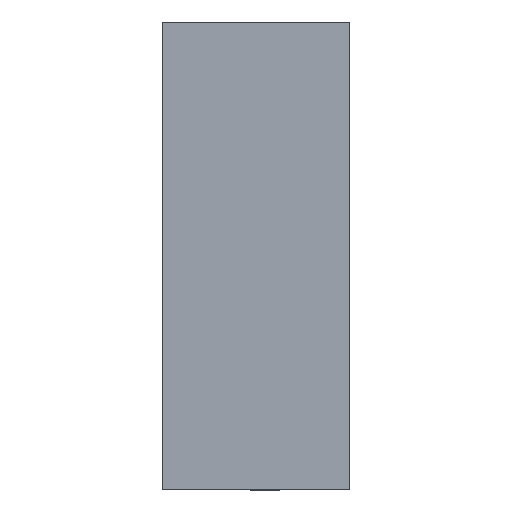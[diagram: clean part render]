
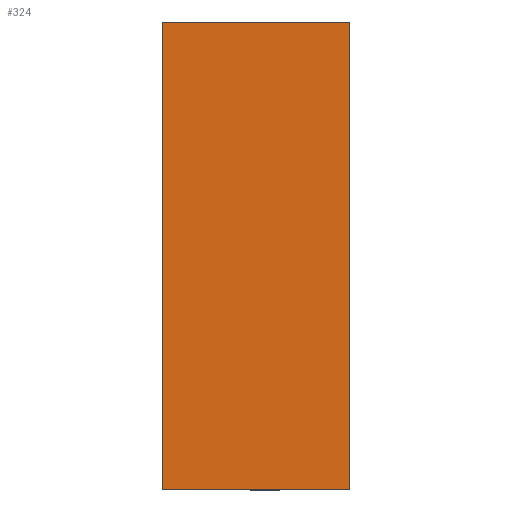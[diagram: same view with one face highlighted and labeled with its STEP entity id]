
A CAD part, left-side view. The second image highlights one B-rep face of the part: STEP entity #324.
In plain terms, the highlighted planar face has unit normal (-1, 0, 0).
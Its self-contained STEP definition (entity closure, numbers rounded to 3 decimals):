
#1 = VECTOR ( 'NONE', #20, 1000. ) ;
#8 = AXIS2_PLACEMENT_3D ( 'NONE', #288, #249, #465 ) ;
#20 = DIRECTION ( 'NONE',  ( 0., -1., 0. ) ) ;
#54 = LINE ( 'NONE', #476, #1 ) ;
#98 = CARTESIAN_POINT ( 'NONE',  ( -80., 0., -10. ) ) ;
#126 = VECTOR ( 'NONE', #367, 1000. ) ;
#127 = VERTEX_POINT ( 'NONE', #401 ) ;
#138 = ORIENTED_EDGE ( 'NONE', *, *, #359, .T. ) ;
#151 = EDGE_CURVE ( 'NONE', #127, #271, #356, .T. ) ;
#166 = CARTESIAN_POINT ( 'NONE',  ( -80., 8., 10. ) ) ;
#171 = EDGE_CURVE ( 'NONE', #422, #384, #267, .T. ) ;
#180 = DIRECTION ( 'NONE',  ( 0., 0., 1. ) ) ;
#183 = EDGE_LOOP ( 'NONE', ( #480, #191, #433, #138 ) ) ;
#191 = ORIENTED_EDGE ( 'NONE', *, *, #200, .F. ) ;
#200 = EDGE_CURVE ( 'NONE', #271, #384, #255, .T. ) ;
#224 = DIRECTION ( 'NONE',  ( 0., 0., 1. ) ) ;
#249 = DIRECTION ( 'NONE',  ( 1., 0., 0. ) ) ;
#255 = LINE ( 'NONE', #489, #126 ) ;
#267 = LINE ( 'NONE', #308, #292 ) ;
#271 = VERTEX_POINT ( 'NONE', #166 ) ;
#286 = PLANE ( 'NONE',  #8 ) ;
#288 = CARTESIAN_POINT ( 'NONE',  ( -80., 8., -10. ) ) ;
#292 = VECTOR ( 'NONE', #180, 1000. ) ;
#308 = CARTESIAN_POINT ( 'NONE',  ( -80., 0., -10. ) ) ;
#324 = ADVANCED_FACE ( 'NONE', ( #332 ), #286, .F. ) ;
#328 = VECTOR ( 'NONE', #224, 1000. ) ;
#332 = FACE_OUTER_BOUND ( 'NONE', #183, .T. ) ;
#356 = LINE ( 'NONE', #442, #328 ) ;
#359 = EDGE_CURVE ( 'NONE', #127, #422, #54, .T. ) ;
#367 = DIRECTION ( 'NONE',  ( 0., -1., 0. ) ) ;
#384 = VERTEX_POINT ( 'NONE', #514 ) ;
#401 = CARTESIAN_POINT ( 'NONE',  ( -80., 8., -10. ) ) ;
#422 = VERTEX_POINT ( 'NONE', #98 ) ;
#433 = ORIENTED_EDGE ( 'NONE', *, *, #151, .F. ) ;
#442 = CARTESIAN_POINT ( 'NONE',  ( -80., 8., -10. ) ) ;
#465 = DIRECTION ( 'NONE',  ( 0., 0., -1. ) ) ;
#476 = CARTESIAN_POINT ( 'NONE',  ( -80., 8., -10. ) ) ;
#480 = ORIENTED_EDGE ( 'NONE', *, *, #171, .T. ) ;
#489 = CARTESIAN_POINT ( 'NONE',  ( -80., 8., 10. ) ) ;
#514 = CARTESIAN_POINT ( 'NONE',  ( -80., 0., 10. ) ) ;
